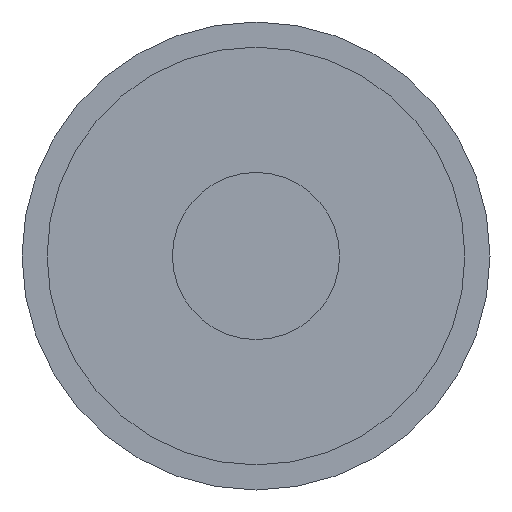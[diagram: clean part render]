
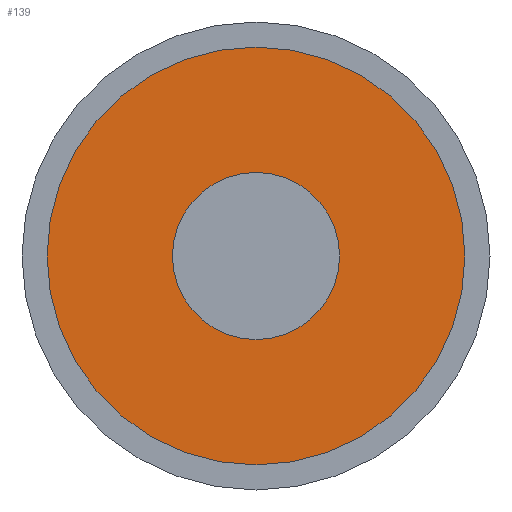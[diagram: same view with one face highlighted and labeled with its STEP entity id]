
A CAD part, front view. The second image highlights one B-rep face of the part: STEP entity #139.
In plain terms, the highlighted planar face has unit normal (0, -1, 0).
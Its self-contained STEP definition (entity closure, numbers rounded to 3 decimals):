
#35=FACE_BOUND('',#54,.T.);
#40=FACE_OUTER_BOUND('',#53,.T.);
#53=EDGE_LOOP('',(#109));
#54=EDGE_LOOP('',(#110));
#66=CIRCLE('',#168,6.25);
#67=CIRCLE('',#170,2.5);
#76=VERTEX_POINT('',#244);
#77=VERTEX_POINT('',#248);
#87=EDGE_CURVE('',#76,#76,#66,.T.);
#89=EDGE_CURVE('',#77,#77,#67,.T.);
#109=ORIENTED_EDGE('',*,*,#87,.T.);
#110=ORIENTED_EDGE('',*,*,#89,.T.);
#130=PLANE('',#171);
#139=ADVANCED_FACE('',(#40,#35),#130,.T.);
#168=AXIS2_PLACEMENT_3D('',#246,#197,#198);
#170=AXIS2_PLACEMENT_3D('',#250,#202,#203);
#171=AXIS2_PLACEMENT_3D('',#251,#204,#205);
#197=DIRECTION('center_axis',(0.,-1.,0.));
#198=DIRECTION('ref_axis',(-1.,0.,0.));
#202=DIRECTION('center_axis',(0.,1.,0.));
#203=DIRECTION('ref_axis',(-1.,0.,0.));
#204=DIRECTION('center_axis',(0.,-1.,0.));
#205=DIRECTION('ref_axis',(0.,0.,-1.));
#244=CARTESIAN_POINT('',(6.25,455.,0.));
#246=CARTESIAN_POINT('Origin',(0.,455.,0.));
#248=CARTESIAN_POINT('',(2.5,455.,0.));
#250=CARTESIAN_POINT('Origin',(0.,455.,0.));
#251=CARTESIAN_POINT('Origin',(0.,455.,0.));
